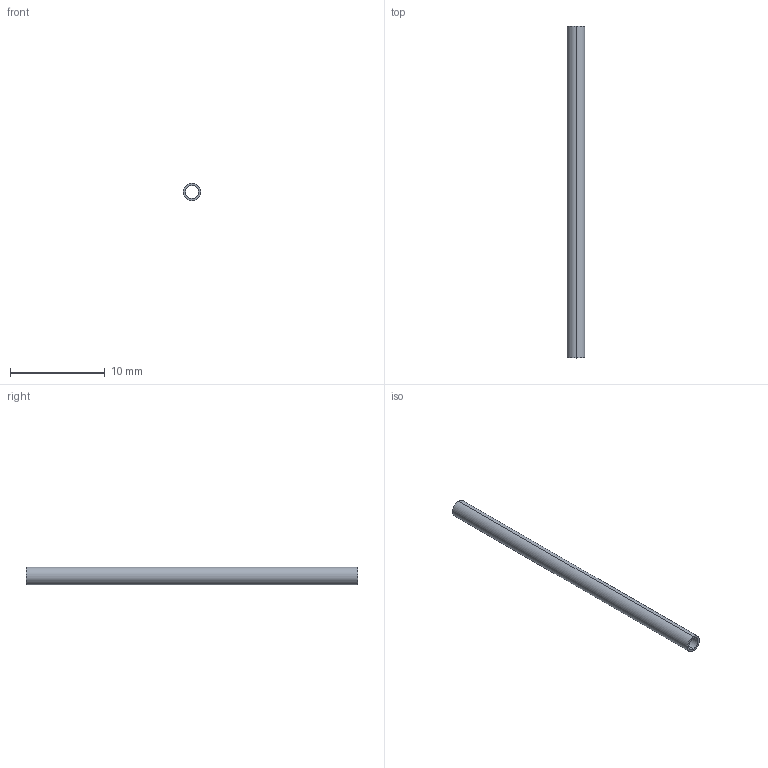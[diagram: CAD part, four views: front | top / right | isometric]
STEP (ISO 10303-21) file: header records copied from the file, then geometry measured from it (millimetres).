
FILE_DESCRIPTION(/* description */ ('(C) Elphel, Inc. 2013. Licensed under CERN OHL v.1.1 or later, see http://ohwr.org/cernohl'),/* implementation_level */ '2;1');
FILE_NAME(/* name */ '0353-23-12.stp',/* time_stamp */ '2013-04-05T16:15:21-06:00',/* author */ (''),/* organization */ ('Elphel, Inc'),/* preprocessor_version */ 'ST-DEVELOPER v14',/* originating_system */ 'VariCAD 2013-1.03; kernel version (20121105)',/* authorisation */ '');
FILE_SCHEMA (('CONFIG_CONTROL_DESIGN'));
Length unit declared in the file: millimetre
Products named in the file (2): 0353-23-12
Assembly tree (1 placements, depth 2):
  0353-23-12
    0353-23-12
Bounding box: 1.83 x 35 x 1.83 mm (x, y, z)
Volume: 40.4 mm3; surface area: 353.9 mm2
Topology: 1 solids, 1 shells, 10 faces, 20 edges, 12 vertices
Faces by surface type: cylinder 6, plane 2, cone 2
Entity records: 368 total; most frequent: DIRECTION 60, CARTESIAN_POINT 46, ORIENTED_EDGE 40, AXIS2_PLACEMENT_3D 26, EDGE_CURVE 20, EDGE_LOOP 12, CIRCLE 12, VERTEX_POINT 12
